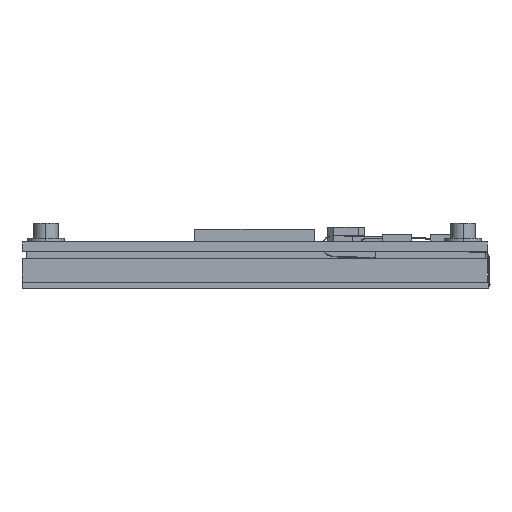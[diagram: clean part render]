
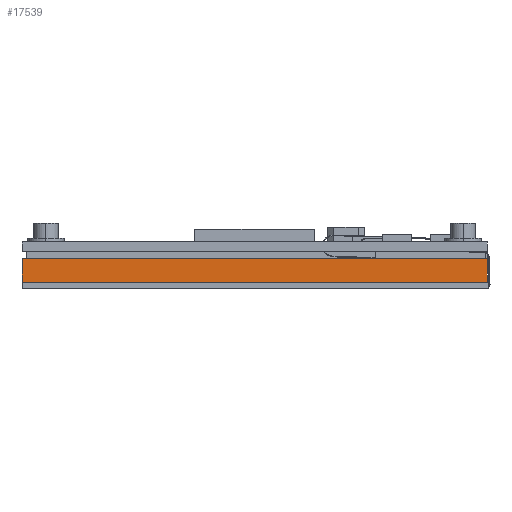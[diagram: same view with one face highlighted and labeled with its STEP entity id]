
A CAD part, left-side view. The second image highlights one B-rep face of the part: STEP entity #17539.
In plain terms, the highlighted planar face has unit normal (-1, 0, 0) as drawn and (1, 0, 0) by its records, which use the part's own axes.
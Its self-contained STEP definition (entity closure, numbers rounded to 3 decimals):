
#732 = CARTESIAN_POINT ( 'NONE',  ( 60.33, 0., -3.82 ) ) ;
#834 = LINE ( 'NONE', #732, #6907 ) ;
#953 = EDGE_CURVE ( 'NONE', #16644, #1582, #834, .T. ) ;
#1582 = VERTEX_POINT ( 'NONE', #17265 ) ;
#1869 = CARTESIAN_POINT ( 'NONE',  ( 60.33, -40.14, 0. ) ) ;
#2161 = CARTESIAN_POINT ( 'NONE',  ( 60.33, 0., -3.82 ) ) ;
#3211 = DIRECTION ( 'NONE',  ( 0., 0., 1. ) ) ;
#3870 = FACE_OUTER_BOUND ( 'NONE', #10976, .T. ) ;
#5596 = VERTEX_POINT ( 'NONE', #10708 ) ;
#6907 = VECTOR ( 'NONE', #12287, 1000. ) ;
#7689 = VECTOR ( 'NONE', #20718, 1000. ) ;
#7763 = CARTESIAN_POINT ( 'NONE',  ( 60.33, 0., 0. ) ) ;
#10043 = PLANE ( 'NONE',  #15164 ) ;
#10266 = DIRECTION ( 'NONE',  ( -1., 0., 0. ) ) ;
#10708 = CARTESIAN_POINT ( 'NONE',  ( 60.33, 35.66, 0. ) ) ;
#10976 = EDGE_LOOP ( 'NONE', ( #12587, #11018, #14344, #19784 ) ) ;
#11018 = ORIENTED_EDGE ( 'NONE', *, *, #14006, .F. ) ;
#11071 = VERTEX_POINT ( 'NONE', #1869 ) ;
#11297 = LINE ( 'NONE', #17774, #16549 ) ;
#11588 = CARTESIAN_POINT ( 'NONE',  ( 60.33, 35.66, -3.82 ) ) ;
#11656 = DIRECTION ( 'NONE',  ( 0., -1., 0. ) ) ;
#12287 = DIRECTION ( 'NONE',  ( 0., -1., 0. ) ) ;
#12587 = ORIENTED_EDGE ( 'NONE', *, *, #16921, .T. ) ;
#13804 = VECTOR ( 'NONE', #19140, 1000. ) ;
#14006 = EDGE_CURVE ( 'NONE', #1582, #11071, #17521, .T. ) ;
#14344 = ORIENTED_EDGE ( 'NONE', *, *, #953, .F. ) ;
#15164 = AXIS2_PLACEMENT_3D ( 'NONE', #2161, #10266, #11656 ) ;
#15185 = EDGE_CURVE ( 'NONE', #16644, #5596, #11297, .T. ) ;
#15948 = CARTESIAN_POINT ( 'NONE',  ( 60.33, -40.14, -3.82 ) ) ;
#16549 = VECTOR ( 'NONE', #3211, 1000. ) ;
#16644 = VERTEX_POINT ( 'NONE', #11588 ) ;
#16921 = EDGE_CURVE ( 'NONE', #5596, #11071, #17333, .T. ) ;
#17265 = CARTESIAN_POINT ( 'NONE',  ( 60.33, -40.14, -3.82 ) ) ;
#17333 = LINE ( 'NONE', #7763, #13804 ) ;
#17521 = LINE ( 'NONE', #15948, #7689 ) ;
#17539 = ADVANCED_FACE ( 'NONE', ( #3870 ), #10043, .F. ) ;
#17774 = CARTESIAN_POINT ( 'NONE',  ( 60.33, 35.66, -3.82 ) ) ;
#19140 = DIRECTION ( 'NONE',  ( 0., -1., 0. ) ) ;
#19784 = ORIENTED_EDGE ( 'NONE', *, *, #15185, .T. ) ;
#20718 = DIRECTION ( 'NONE',  ( 0., 0., 1. ) ) ;
